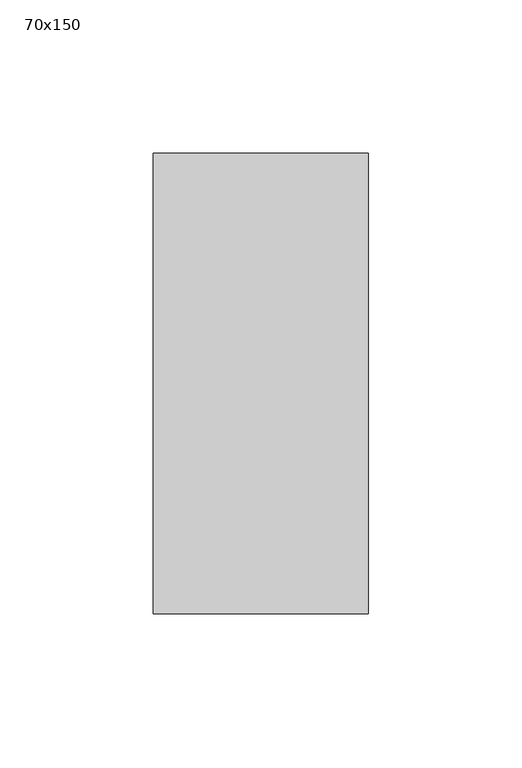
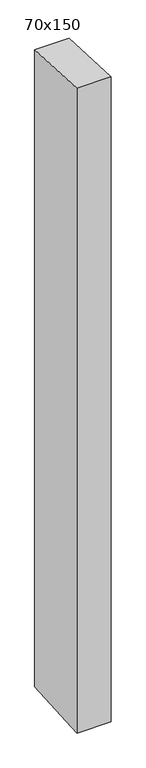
"""IFC4 building model written with IfcOpenShell, lengths in millimetres: member geometry, 長方形のマリオン : 70x150."""

import ifcopenshell
import ifcopenshell.guid

model = None  # the IFC model being written
_history = None  # IfcOwnerHistory: only IFC2X3 demands one
_inside = {}  # id of a spatial element -> (the spatial element, [elements in it])
_under = {}  # id of a project, library or spatial element -> (it, [spatial elements below it])
_declared = {}  # id of a project -> (the project, [libraries it declares])
_typed = {}  # id of a type object -> (the type object, [elements of that type])
_made_of = {}  # id of a material, layer set ... -> (it, [elements and type objects made of it])


def new_model(schema):
    """Start an empty IFC model of exactly this schema.

    Asked for "IFC4X3", IfcOpenShell would pick the latest addendum, in which some entities
    have other attributes; the version numbers below select the first issue.
    IFC2X3 requires an IfcOwnerHistory on every rooted entity: one is made here for all.
    """
    global model, _history
    if schema == "IFC4X3":
        model = ifcopenshell.file(schema_version=(4, 3, 0, 0))
    else:
        model = ifcopenshell.file(schema=schema)
    _inside.clear()
    _under.clear()
    _declared.clear()
    _typed.clear()
    _made_of.clear()
    _history = None
    if model.schema == "IFC2X3":
        org = make("IfcOrganization", Name="unknown")
        user = make(
            "IfcPersonAndOrganization",
            ThePerson=make("IfcPerson", FamilyName="unknown"),
            TheOrganization=org,
        )
        app = make(
            "IfcApplication",
            ApplicationDeveloper=org,
            Version="unknown",
            ApplicationFullName="unknown",
            ApplicationIdentifier="unknown",
        )
        _history = make(
            "IfcOwnerHistory",
            OwningUser=user,
            OwningApplication=app,
            ChangeAction="ADDED",
            CreationDate=0,
        )
    return model


def make(cls, **values):
    """One entity of the class cls with the attributes given. An attribute that is None is left unset."""
    return model.create_entity(
        cls, **{name: value for name, value in values.items() if value is not None}
    )


def rooted(cls, **values):
    """An entity with a GlobalId (a new one), such as an element, a storey or a relation."""
    return make(cls, GlobalId=ifcopenshell.guid.new(), OwnerHistory=_history, **values)


def si_unit(unit_type, name, prefix=None):
    """IfcSIUnit, for example si_unit("LENGTHUNIT", "METRE", prefix="MILLI")."""
    return make("IfcSIUnit", UnitType=unit_type, Prefix=prefix, Name=name)


def assignment(units):
    """IfcUnitAssignment: the units of a project."""
    return None if units is None else make("IfcUnitAssignment", Units=units)


def point(xyz):
    """IfcCartesianPoint."""
    return None if xyz is None else make("IfcCartesianPoint", Coordinates=xyz)


def direction(xyz):
    """IfcDirection."""
    return None if xyz is None else make("IfcDirection", DirectionRatios=xyz)


def frame(location, z_axis=None, x_axis=None):
    """IfcAxis2Placement3D, a coordinate frame: its origin and axes. An axis left out is left unset."""
    return make(
        "IfcAxis2Placement3D",
        Location=point(location),
        Axis=direction(z_axis),
        RefDirection=direction(x_axis),
    )


def origin():
    """The frame at (0, 0, 0) with its axes left unset."""
    return frame((0.0, 0.0, 0.0))


def place(relative_to, where):
    """IfcLocalPlacement: puts the frame where relative to a parent placement (None: the world)."""
    return make(
        "IfcLocalPlacement", PlacementRelTo=relative_to, RelativePlacement=where
    )


def context(
    kind, dimensions, precision=None, world=None, true_north=None, identifier=None
):
    """IfcGeometricRepresentationContext, for example the 3D "Model" context."""
    return make(
        "IfcGeometricRepresentationContext",
        ContextIdentifier=identifier,
        ContextType=kind,
        CoordinateSpaceDimension=dimensions,
        Precision=precision,
        WorldCoordinateSystem=world,
        TrueNorth=true_north,
    )


def project(units=None, contexts=None):
    """IfcProject with its units and contexts."""
    return rooted(
        "IfcProject",
        Name="project",
        RepresentationContexts=contexts,
        UnitsInContext=assignment(units),
    )


def spatial(cls, under=None, at=None, **own):
    """A site, building, storey or space (cls), placed at a placement, below another one or the project."""
    s = rooted(cls, ObjectPlacement=at, **own)
    if under is not None:
        _under.setdefault(under.id(), (under, []))[1].append(s)
    return s


def polyline(points):
    """IfcPolyline through the points."""
    return make("IfcPolyline", Points=[point(p) for p in points])


def outline(outer, holes=None, kind="AREA"):
    """IfcArbitraryClosedProfileDef: a profile drawn as a closed curve; with holes, ...WithVoids."""
    if holes is None:
        return make("IfcArbitraryClosedProfileDef", ProfileType=kind, OuterCurve=outer)
    return make(
        "IfcArbitraryProfileDefWithVoids",
        ProfileType=kind,
        OuterCurve=outer,
        InnerCurves=holes,
    )


def extrude(swept, where, along, depth):
    """IfcExtrudedAreaSolid: the profile swept, set in the frame where, extruded along a direction by depth."""
    return make(
        "IfcExtrudedAreaSolid",
        SweptArea=swept,
        Position=where,
        ExtrudedDirection=direction(along),
        Depth=depth,
    )


def shape(context_of_items, identifier, shape_type, items):
    """IfcShapeRepresentation: the items that make up one representation, for example the "Body"."""
    return make(
        "IfcShapeRepresentation",
        ContextOfItems=context_of_items,
        RepresentationIdentifier=identifier,
        RepresentationType=shape_type,
        Items=items,
    )


def source(mapping_origin, context_of_items, identifier, shape_type, items):
    """IfcRepresentationMap: a shape defined once, which mapped items show again and again."""
    return make(
        "IfcRepresentationMap",
        MappingOrigin=mapping_origin,
        MappedRepresentation=shape(context_of_items, identifier, shape_type, items),
    )


def transform(
    local_origin,
    x_axis=None,
    y_axis=None,
    z_axis=None,
    scale=None,
    scale2=None,
    scale3=None,
    uniform=True,
):
    """IfcCartesianTransformationOperator3D, or its non-uniform kind. x_axis, y_axis, z_axis: its Axis1, 2, 3."""
    if uniform:
        return make(
            "IfcCartesianTransformationOperator3D",
            Axis1=direction(x_axis),
            Axis2=direction(y_axis),
            LocalOrigin=point(local_origin),
            Scale=scale,
            Axis3=direction(z_axis),
        )
    return make(
        "IfcCartesianTransformationOperator3DnonUniform",
        Axis1=direction(x_axis),
        Axis2=direction(y_axis),
        LocalOrigin=point(local_origin),
        Scale=scale,
        Axis3=direction(z_axis),
        Scale2=scale2,
        Scale3=scale3,
    )


def mapped(mapping_source, mapping_target):
    """IfcMappedItem: shows the shape of a source again, moved by a transform."""
    return make(
        "IfcMappedItem", MappingSource=mapping_source, MappingTarget=mapping_target
    )


def made_of(thing, what):
    """Note that an element or type object is made of a material, layer set ...; save() writes the relation."""
    if what is not None:
        _made_of.setdefault(what.id(), (what, []))[1].append(thing)
    return thing


def element(
    cls,
    number,
    at=None,
    inside=None,
    cuts=None,
    type_object=None,
    material=None,
    context=None,
    identifier="Body",
    shape_type=None,
    held_by="IfcProductDefinitionShape",
    body=None,
    shapes=None,
    **own,
):
    """One element of the class cls, such as IfcWall. Its Tag is "e" and its number.

    at: its placement. inside: the storey or other place that contains it. cuts: it is an
    opening in that element (IfcRelVoidsElement). A single representation is given by context,
    identifier, shape_type and body (its items); several are given by shapes. held_by: the class
    of the entity that holds the representations. save() writes the other relations.
    """
    e = rooted(cls, Tag="e%d" % number, ObjectPlacement=at, **own)
    if body is not None:
        shapes = [shape(context, identifier, shape_type, body)]
    if shapes is not None:
        e.Representation = make(held_by, Representations=shapes)
    if inside is not None:
        _inside.setdefault(inside.id(), (inside, []))[1].append(e)
    if cuts is not None:
        rooted(
            "IfcRelVoidsElement", RelatingBuildingElement=cuts, RelatedOpeningElement=e
        )
    if type_object is not None:
        _typed.setdefault(type_object.id(), (type_object, []))[1].append(e)
    return made_of(e, material)


def aggregate(whole, parts):
    """IfcRelAggregates: a whole, such as a stair, and the parts it consists of."""
    return rooted("IfcRelAggregates", RelatingObject=whole, RelatedObjects=parts)


def save(model, path):
    """Write the relations noted so far, then the file.

    IfcRelAggregates (storeys below a building ...), IfcRelContainedInSpatialStructure (elements
    in a storey), IfcRelDefinesByType, IfcRelAssociatesMaterial and IfcRelDeclares: one each for
    every whole, place, type object, material and project.
    """
    for whole, parts in _under.values():
        aggregate(whole, parts)
    for where, things in _inside.values():
        rooted(
            "IfcRelContainedInSpatialStructure",
            RelatedElements=things,
            RelatingStructure=where,
        )
    for kind, things in _typed.values():
        rooted("IfcRelDefinesByType", RelatedObjects=things, RelatingType=kind)
    for what, things in _made_of.values():
        rooted("IfcRelAssociatesMaterial", RelatedObjects=things, RelatingMaterial=what)
    for by, libraries in _declared.values():
        rooted("IfcRelDeclares", RelatingContext=by, RelatedDefinitions=libraries)
    model.write(path)


def member_70x150_ee129655(model_context):
    return source(origin(), model_context, "Body", "SweptSolid", [
        extrude(outline(polyline([(-75.0, 3.7398753), (75.0, -3.7398753), (75.0, -1383.4275746), (-75.0, -1393.3222831), (-75.0, 3.7398753)])), frame((-70.0, 0.0, 0.0), z_axis=(1.0, 0.0, 0.0), x_axis=(0.0, 1.0, 0.0)), (0.0, 0.0, 1.0), 70.0),
    ])


if __name__ == "__main__":
    model = new_model("IFC4")
    model_context = context("Model", 3, world=origin())
    ifc_project = project(units=[si_unit("LENGTHUNIT", "METRE", prefix="MILLI")], contexts=[model_context])
    site = spatial("IfcSite", under=ifc_project)
    building = spatial("IfcBuilding", under=site)
    placement = place(None, origin())
    member_70x150_shape = member_70x150_ee129655(model_context)
    element("IfcMember", 1, ObjectType="長方形のマリオン : 70x150", at=placement, inside=building, context=model_context, shape_type="MappedRepresentation", body=[
        mapped(member_70x150_shape, transform((0.0, 0.0, 0.0), x_axis=(1.0, 0.0, 0.0), y_axis=(0.0, 1.0, 0.0), z_axis=(0.0, 0.0, 1.0))),
    ])
    save(model, "model.ifc")
